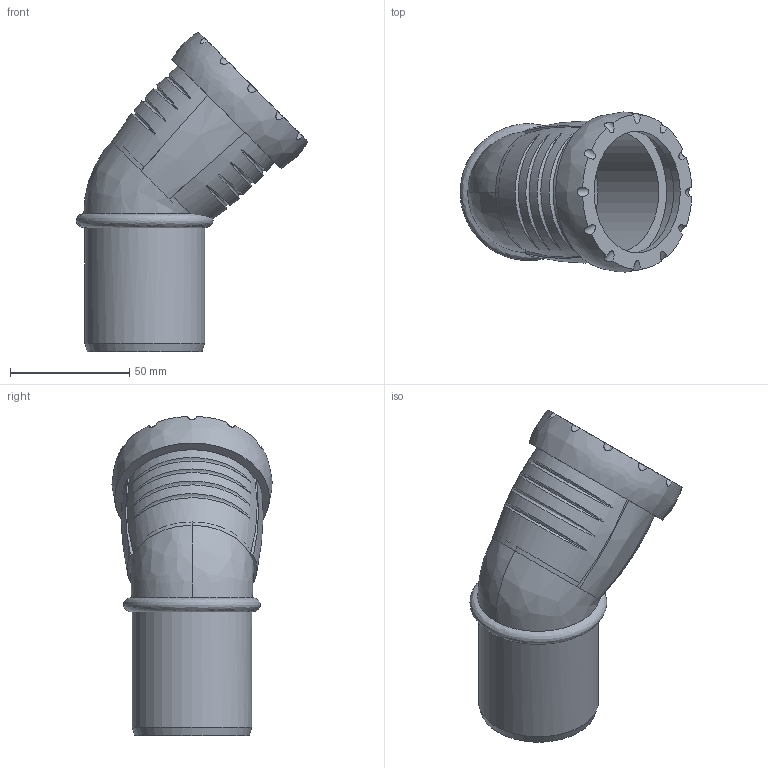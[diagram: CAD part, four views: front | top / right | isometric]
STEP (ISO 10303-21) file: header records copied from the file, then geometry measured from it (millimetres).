
FILE_DESCRIPTION(/* description */ (''),/* implementation_level */ '2;1');
FILE_NAME(/* name */ 'H:\Geberit-Teile\Export\Bogen_TEST\stp\393222.stp',/* time_stamp */ '2017-02-14T10:04:33+01:00',/* author */ ('seihe2'),/* organization */ (''),/* preprocessor_version */ 'ST-DEVELOPER v15.2',/* originating_system */ 'Autodesk Inventor 2014',/* authorisation */ '');
FILE_SCHEMA (('AUTOMOTIVE_DESIGN { 1 0 10303 214 3 1 1 }'));
Length unit declared in the file: millimetre
Products named in the file (1): 393222
Bounding box: 96.94 x 67.08 x 133.65 mm (x, y, z)
Volume: 109120.2 mm3; surface area: 49347.3 mm2
Topology: 2 solids, 2 shells, 55 faces, 136 edges, 96 vertices
Faces by surface type: bspline 27, cylinder 18, plane 8, cone 2
Full cylindrical faces by diameter (mm): 44.15 x1, 50.15 x1, 50.7 x1, 51 x1, 60.1 x1
Entity records: 4214 total; most frequent: CARTESIAN_POINT 3005, ORIENTED_EDGE 258, DIRECTION 176, EDGE_CURVE 128, VERTEX_POINT 95, AXIS2_PLACEMENT_3D 88, EDGE_LOOP 76, B_SPLINE_CURVE_WITH_KNOTS 68
